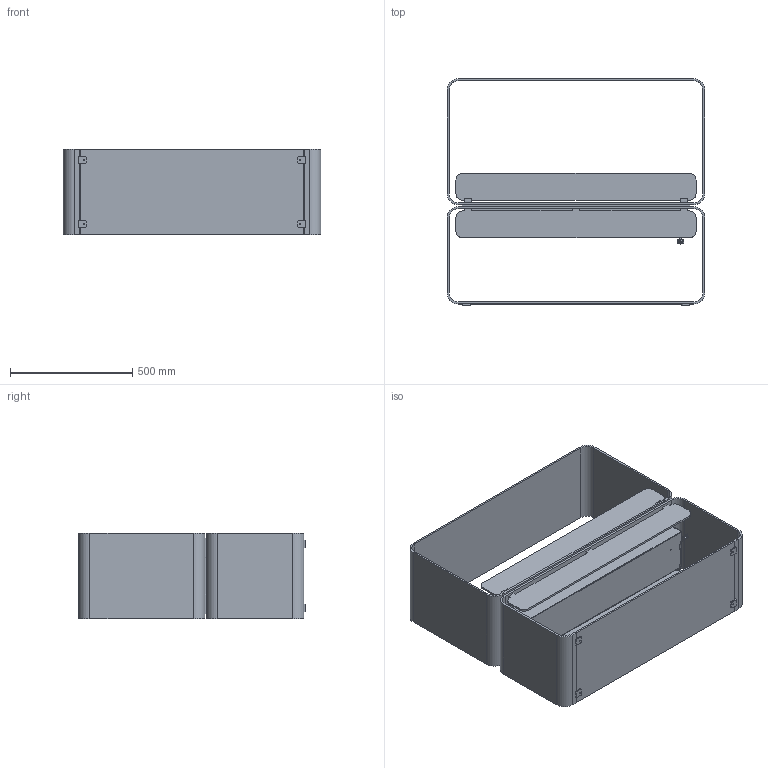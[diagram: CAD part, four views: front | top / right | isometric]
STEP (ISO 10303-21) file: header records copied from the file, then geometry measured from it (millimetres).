
FILE_DESCRIPTION (( 'STEP AP203' ), '1' );
FILE_NAME ('Austin Denver F3.STEP', '2024-03-15T07:55:26', ( '' ), ( '' ), 'SwSTEP 2.0', 'SolidWorks 2023', '' );
FILE_SCHEMA (( 'CONFIG_CONTROL_DESIGN' ));
Length unit declared in the file: millimetre
Products named in the file (20): DB101092.STEP; Austin with Denver Basic.STEP; Glass holder 6mm_1.STEP; Ledning kort.STEP; 920 FT700 Assem_1.STEP; Austin bund.STEP; lille glas.STEP; DB104001.STEP; M6 tap til flad glasholdere.STEP; Austin bund base.STEP; Austin Denver F3; Laskecut.STEP; DB703092.STEP; Austin bund skjold.STEP; Austin top base.STEP; Denver F6_uden glas; 920 FT700 Top Plate_1.STEP; Austin top.STEP; 8mm lang laske.STEP; Mirror8mm lang laske.STEP
Assembly tree (30 placements, depth 5):
  Austin Denver F3
    Austin with Denver Basic.STEP
      920 FT700 Assem_1.STEP
        920 FT700 Top Plate_1.STEP
          DB703092.STEP
        DB101092.STEP
        DB104001.STEP
        Ledning kort.STEP
      Austin bund.STEP
      Austin bund base.STEP
      Austin top.STEP
      Austin top base.STEP
      lille glas.STEP  x2
      Austin bund skjold.STEP  x2
      Glass holder 6mm_1.STEP  x4
      M6 tap til flad glasholdere.STEP  x4
      Laskecut.STEP  x4
      8mm lang laske.STEP
      Mirror8mm lang laske.STEP
    Denver F6_uden glas
Bounding box: 1055 x 928 x 350 mm (x, y, z)
Volume: 18646476.5 mm3; surface area: 6090670.8 mm2
Topology: 30 solids, 30 shells, 1314 faces, 3397 edges, 2136 vertices
Faces by surface type: plane 904, cylinder 340, bspline 32, torus 24, cone 8, sphere 6
Entity records: 37721 total; most frequent: CARTESIAN_POINT 8622, ORIENTED_EDGE 5522, DIRECTION 5311, EDGE_CURVE 2761, LINE 2103, VECTOR 2103, VERTEX_POINT 1765, AXIS2_PLACEMENT_3D 1604
